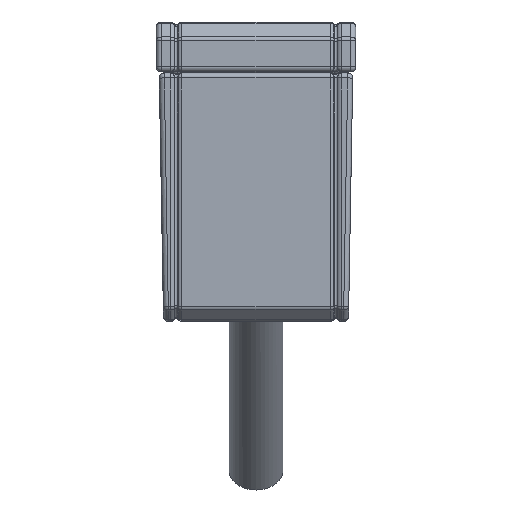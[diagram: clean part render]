
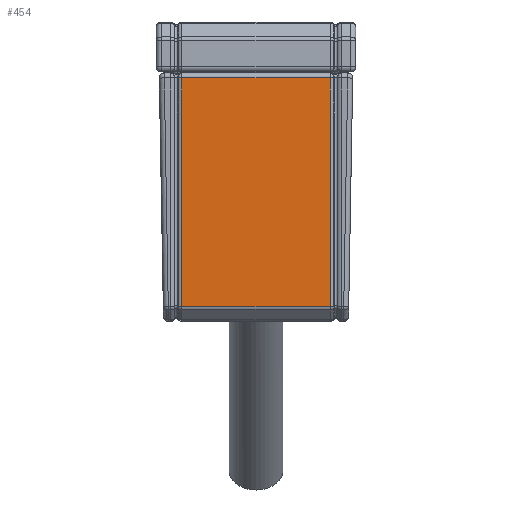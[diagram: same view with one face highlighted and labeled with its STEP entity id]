
A CAD part, left-side view. The second image highlights one B-rep face of the part: STEP entity #454.
In plain terms, the highlighted planar face has unit normal (-1, 0, -0.018).
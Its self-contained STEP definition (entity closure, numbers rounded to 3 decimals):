
#454 = ADVANCED_FACE ( 'NONE', ( #5582 ), #48369, .T. ) ;
#1746 = VERTEX_POINT ( 'NONE', #23642 ) ;
#2665 = CARTESIAN_POINT ( 'NONE',  ( -22.991, -7.431, -0.609 ) ) ;
#5582 = FACE_OUTER_BOUND ( 'NONE', #43292, .T. ) ;
#6749 = VECTOR ( 'NONE', #55406, 1000. ) ;
#9308 = CARTESIAN_POINT ( 'NONE',  ( -23., 9.7, -0.1 ) ) ;
#13780 = EDGE_CURVE ( 'NONE', #1746, #49785, #42990, .T. ) ;
#13855 = DIRECTION ( 'NONE',  ( 0.017, 0., -1. ) ) ;
#15987 = CARTESIAN_POINT ( 'NONE',  ( -23., -7.431, -0.1 ) ) ;
#18000 = VERTEX_POINT ( 'NONE', #42684 ) ;
#19091 = AXIS2_PLACEMENT_3D ( 'NONE', #9308, #31833, #26269 ) ;
#19256 = VECTOR ( 'NONE', #13855, 1000. ) ;
#22289 = CARTESIAN_POINT ( 'NONE',  ( -22.591, 9.7, -23.51 ) ) ;
#23311 = CARTESIAN_POINT ( 'NONE',  ( -22.991, 9.7, -0.609 ) ) ;
#23642 = CARTESIAN_POINT ( 'NONE',  ( -22.991, 7.431, -0.609 ) ) ;
#23664 = EDGE_CURVE ( 'NONE', #42889, #1746, #33043, .T. ) ;
#26269 = DIRECTION ( 'NONE',  ( -0.017, 0., 1. ) ) ;
#31833 = DIRECTION ( 'NONE',  ( -1., 0., -0.017 ) ) ;
#33043 = LINE ( 'NONE', #23311, #39686 ) ;
#33850 = VECTOR ( 'NONE', #44483, 1000. ) ;
#37726 = ORIENTED_EDGE ( 'NONE', *, *, #54269, .T. ) ;
#39686 = VECTOR ( 'NONE', #51681, 1000. ) ;
#42346 = CARTESIAN_POINT ( 'NONE',  ( -23., 7.431, -0.1 ) ) ;
#42684 = CARTESIAN_POINT ( 'NONE',  ( -22.591, -7.431, -23.51 ) ) ;
#42889 = VERTEX_POINT ( 'NONE', #2665 ) ;
#42990 = LINE ( 'NONE', #42346, #19256 ) ;
#43235 = LINE ( 'NONE', #22289, #6749 ) ;
#43292 = EDGE_LOOP ( 'NONE', ( #57210, #46422, #45085, #37726 ) ) ;
#43412 = CARTESIAN_POINT ( 'NONE',  ( -22.591, 7.431, -23.51 ) ) ;
#44483 = DIRECTION ( 'NONE',  ( -0.017, 0., 1. ) ) ;
#45085 = ORIENTED_EDGE ( 'NONE', *, *, #13780, .T. ) ;
#46422 = ORIENTED_EDGE ( 'NONE', *, *, #23664, .T. ) ;
#46450 = LINE ( 'NONE', #15987, #33850 ) ;
#48369 = PLANE ( 'NONE',  #19091 ) ;
#49785 = VERTEX_POINT ( 'NONE', #43412 ) ;
#51681 = DIRECTION ( 'NONE',  ( 0., 1., 0. ) ) ;
#54269 = EDGE_CURVE ( 'NONE', #49785, #18000, #43235, .T. ) ;
#55406 = DIRECTION ( 'NONE',  ( 0., -1., 0. ) ) ;
#57210 = ORIENTED_EDGE ( 'NONE', *, *, #60391, .T. ) ;
#60391 = EDGE_CURVE ( 'NONE', #18000, #42889, #46450, .T. ) ;
